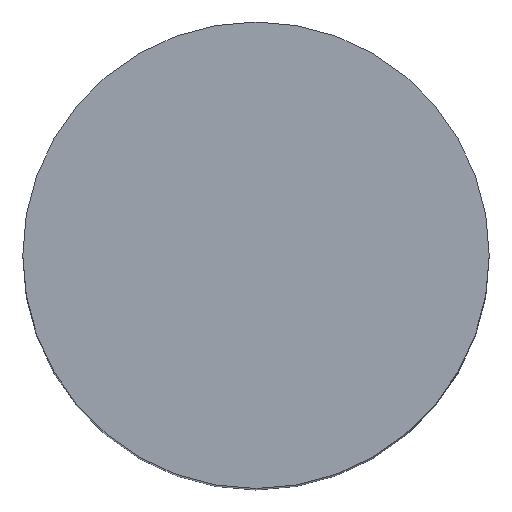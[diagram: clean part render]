
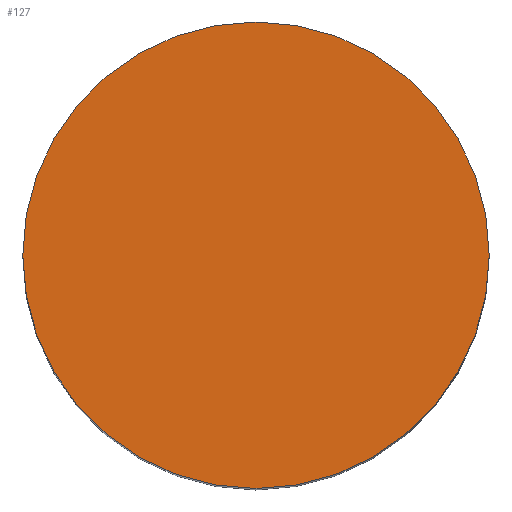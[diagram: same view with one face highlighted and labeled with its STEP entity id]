
A CAD part, top view. The second image highlights one B-rep face of the part: STEP entity #127.
In plain terms, the highlighted planar face has unit normal (0, 0, 1).
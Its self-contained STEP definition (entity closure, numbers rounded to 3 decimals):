
#42 = VERTEX_POINT('',#43);
#43 = CARTESIAN_POINT('',(2750.,0.,10000.));
#50 = CYLINDRICAL_SURFACE('',#51,2750.);
#51 = AXIS2_PLACEMENT_3D('',#52,#53,#54);
#52 = CARTESIAN_POINT('',(0.,0.,0.));
#53 = DIRECTION('',(-0.,-0.,-1.));
#54 = DIRECTION('',(1.,0.,0.));
#69 = EDGE_CURVE('',#42,#42,#70,.T.);
#70 = SURFACE_CURVE('',#71,(#76,#83),.PCURVE_S1.);
#71 = CIRCLE('',#72,2750.);
#72 = AXIS2_PLACEMENT_3D('',#73,#74,#75);
#73 = CARTESIAN_POINT('',(0.,0.,10000.));
#74 = DIRECTION('',(0.,0.,1.));
#75 = DIRECTION('',(1.,0.,0.));
#76 = PCURVE('',#50,#77);
#77 = DEFINITIONAL_REPRESENTATION('',(#78),#82);
#78 = LINE('',#79,#80);
#79 = CARTESIAN_POINT('',(-0.,-10000.));
#80 = VECTOR('',#81,1.);
#81 = DIRECTION('',(-1.,0.));
#82 = ( GEOMETRIC_REPRESENTATION_CONTEXT(2) 
PARAMETRIC_REPRESENTATION_CONTEXT() REPRESENTATION_CONTEXT('2D SPACE',''
  ) );
#83 = PCURVE('',#84,#89);
#84 = PLANE('',#85);
#85 = AXIS2_PLACEMENT_3D('',#86,#87,#88);
#86 = CARTESIAN_POINT('',(0.,0.,10000.)
  );
#87 = DIRECTION('',(0.,0.,1.));
#88 = DIRECTION('',(1.,0.,0.));
#89 = DEFINITIONAL_REPRESENTATION('',(#90),#94);
#90 = CIRCLE('',#91,2750.);
#91 = AXIS2_PLACEMENT_2D('',#92,#93);
#92 = CARTESIAN_POINT('',(0.,0.));
#93 = DIRECTION('',(1.,0.));
#94 = ( GEOMETRIC_REPRESENTATION_CONTEXT(2) 
PARAMETRIC_REPRESENTATION_CONTEXT() REPRESENTATION_CONTEXT('2D SPACE',''
  ) );
#127 = ADVANCED_FACE('',(#128),#84,.T.);
#128 = FACE_BOUND('',#129,.T.);
#129 = EDGE_LOOP('',(#130));
#130 = ORIENTED_EDGE('',*,*,#69,.T.);
